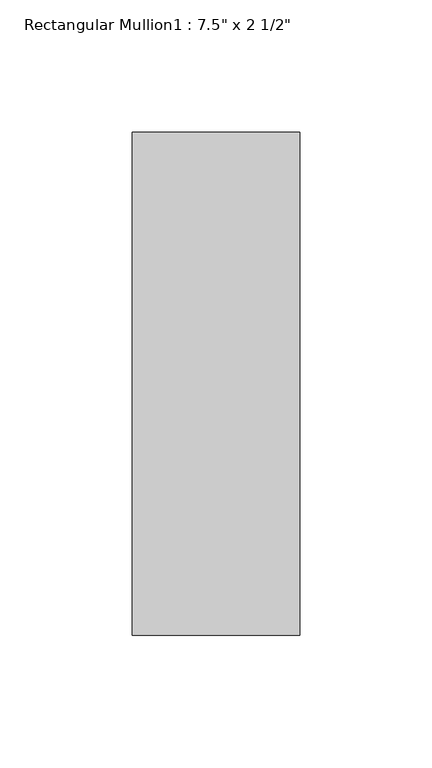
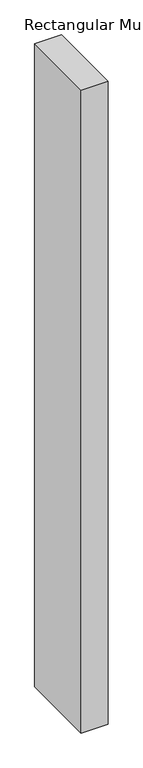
"""IFC4 building model written with IfcOpenShell, lengths in millimetres: member geometry."""

import ifcopenshell
import ifcopenshell.guid

model = None  # the IFC model being written
_history = None  # IfcOwnerHistory: only IFC2X3 demands one
_inside = {}  # id of a spatial element -> (the spatial element, [elements in it])
_under = {}  # id of a project, library or spatial element -> (it, [spatial elements below it])
_declared = {}  # id of a project -> (the project, [libraries it declares])
_typed = {}  # id of a type object -> (the type object, [elements of that type])
_made_of = {}  # id of a material, layer set ... -> (it, [elements and type objects made of it])


def new_model(schema):
    """Start an empty IFC model of exactly this schema.

    Asked for "IFC4X3", IfcOpenShell would pick the latest addendum, in which some entities
    have other attributes; the version numbers below select the first issue.
    IFC2X3 requires an IfcOwnerHistory on every rooted entity: one is made here for all.
    """
    global model, _history
    if schema == "IFC4X3":
        model = ifcopenshell.file(schema_version=(4, 3, 0, 0))
    else:
        model = ifcopenshell.file(schema=schema)
    _inside.clear()
    _under.clear()
    _declared.clear()
    _typed.clear()
    _made_of.clear()
    _history = None
    if model.schema == "IFC2X3":
        org = make("IfcOrganization", Name="unknown")
        user = make(
            "IfcPersonAndOrganization",
            ThePerson=make("IfcPerson", FamilyName="unknown"),
            TheOrganization=org,
        )
        app = make(
            "IfcApplication",
            ApplicationDeveloper=org,
            Version="unknown",
            ApplicationFullName="unknown",
            ApplicationIdentifier="unknown",
        )
        _history = make(
            "IfcOwnerHistory",
            OwningUser=user,
            OwningApplication=app,
            ChangeAction="ADDED",
            CreationDate=0,
        )
    return model


def make(cls, **values):
    """One entity of the class cls with the attributes given. An attribute that is None is left unset."""
    return model.create_entity(
        cls, **{name: value for name, value in values.items() if value is not None}
    )


def rooted(cls, **values):
    """An entity with a GlobalId (a new one), such as an element, a storey or a relation."""
    return make(cls, GlobalId=ifcopenshell.guid.new(), OwnerHistory=_history, **values)


def si_unit(unit_type, name, prefix=None):
    """IfcSIUnit, for example si_unit("LENGTHUNIT", "METRE", prefix="MILLI")."""
    return make("IfcSIUnit", UnitType=unit_type, Prefix=prefix, Name=name)


def assignment(units):
    """IfcUnitAssignment: the units of a project."""
    return None if units is None else make("IfcUnitAssignment", Units=units)


def point(xyz):
    """IfcCartesianPoint."""
    return None if xyz is None else make("IfcCartesianPoint", Coordinates=xyz)


def direction(xyz):
    """IfcDirection."""
    return None if xyz is None else make("IfcDirection", DirectionRatios=xyz)


def frame(location, z_axis=None, x_axis=None):
    """IfcAxis2Placement3D, a coordinate frame: its origin and axes. An axis left out is left unset."""
    return make(
        "IfcAxis2Placement3D",
        Location=point(location),
        Axis=direction(z_axis),
        RefDirection=direction(x_axis),
    )


def origin():
    """The frame at (0, 0, 0) with its axes left unset."""
    return frame((0.0, 0.0, 0.0))


def place(relative_to, where):
    """IfcLocalPlacement: puts the frame where relative to a parent placement (None: the world)."""
    return make(
        "IfcLocalPlacement", PlacementRelTo=relative_to, RelativePlacement=where
    )


def context(
    kind, dimensions, precision=None, world=None, true_north=None, identifier=None
):
    """IfcGeometricRepresentationContext, for example the 3D "Model" context."""
    return make(
        "IfcGeometricRepresentationContext",
        ContextIdentifier=identifier,
        ContextType=kind,
        CoordinateSpaceDimension=dimensions,
        Precision=precision,
        WorldCoordinateSystem=world,
        TrueNorth=true_north,
    )


def project(units=None, contexts=None):
    """IfcProject with its units and contexts."""
    return rooted(
        "IfcProject",
        Name="project",
        RepresentationContexts=contexts,
        UnitsInContext=assignment(units),
    )


def spatial(cls, under=None, at=None, **own):
    """A site, building, storey or space (cls), placed at a placement, below another one or the project."""
    s = rooted(cls, ObjectPlacement=at, **own)
    if under is not None:
        _under.setdefault(under.id(), (under, []))[1].append(s)
    return s


def polyline(points):
    """IfcPolyline through the points."""
    return make("IfcPolyline", Points=[point(p) for p in points])


def outline(outer, holes=None, kind="AREA"):
    """IfcArbitraryClosedProfileDef: a profile drawn as a closed curve; with holes, ...WithVoids."""
    if holes is None:
        return make("IfcArbitraryClosedProfileDef", ProfileType=kind, OuterCurve=outer)
    return make(
        "IfcArbitraryProfileDefWithVoids",
        ProfileType=kind,
        OuterCurve=outer,
        InnerCurves=holes,
    )


def extrude(swept, where, along, depth):
    """IfcExtrudedAreaSolid: the profile swept, set in the frame where, extruded along a direction by depth."""
    return make(
        "IfcExtrudedAreaSolid",
        SweptArea=swept,
        Position=where,
        ExtrudedDirection=direction(along),
        Depth=depth,
    )


def shape(context_of_items, identifier, shape_type, items):
    """IfcShapeRepresentation: the items that make up one representation, for example the "Body"."""
    return make(
        "IfcShapeRepresentation",
        ContextOfItems=context_of_items,
        RepresentationIdentifier=identifier,
        RepresentationType=shape_type,
        Items=items,
    )


def source(mapping_origin, context_of_items, identifier, shape_type, items):
    """IfcRepresentationMap: a shape defined once, which mapped items show again and again."""
    return make(
        "IfcRepresentationMap",
        MappingOrigin=mapping_origin,
        MappedRepresentation=shape(context_of_items, identifier, shape_type, items),
    )


def transform(
    local_origin,
    x_axis=None,
    y_axis=None,
    z_axis=None,
    scale=None,
    scale2=None,
    scale3=None,
    uniform=True,
):
    """IfcCartesianTransformationOperator3D, or its non-uniform kind. x_axis, y_axis, z_axis: its Axis1, 2, 3."""
    if uniform:
        return make(
            "IfcCartesianTransformationOperator3D",
            Axis1=direction(x_axis),
            Axis2=direction(y_axis),
            LocalOrigin=point(local_origin),
            Scale=scale,
            Axis3=direction(z_axis),
        )
    return make(
        "IfcCartesianTransformationOperator3DnonUniform",
        Axis1=direction(x_axis),
        Axis2=direction(y_axis),
        LocalOrigin=point(local_origin),
        Scale=scale,
        Axis3=direction(z_axis),
        Scale2=scale2,
        Scale3=scale3,
    )


def mapped(mapping_source, mapping_target):
    """IfcMappedItem: shows the shape of a source again, moved by a transform."""
    return make(
        "IfcMappedItem", MappingSource=mapping_source, MappingTarget=mapping_target
    )


def made_of(thing, what):
    """Note that an element or type object is made of a material, layer set ...; save() writes the relation."""
    if what is not None:
        _made_of.setdefault(what.id(), (what, []))[1].append(thing)
    return thing


def element(
    cls,
    number,
    at=None,
    inside=None,
    cuts=None,
    type_object=None,
    material=None,
    context=None,
    identifier="Body",
    shape_type=None,
    held_by="IfcProductDefinitionShape",
    body=None,
    shapes=None,
    **own,
):
    """One element of the class cls, such as IfcWall. Its Tag is "e" and its number.

    at: its placement. inside: the storey or other place that contains it. cuts: it is an
    opening in that element (IfcRelVoidsElement). A single representation is given by context,
    identifier, shape_type and body (its items); several are given by shapes. held_by: the class
    of the entity that holds the representations. save() writes the other relations.
    """
    e = rooted(cls, Tag="e%d" % number, ObjectPlacement=at, **own)
    if body is not None:
        shapes = [shape(context, identifier, shape_type, body)]
    if shapes is not None:
        e.Representation = make(held_by, Representations=shapes)
    if inside is not None:
        _inside.setdefault(inside.id(), (inside, []))[1].append(e)
    if cuts is not None:
        rooted(
            "IfcRelVoidsElement", RelatingBuildingElement=cuts, RelatedOpeningElement=e
        )
    if type_object is not None:
        _typed.setdefault(type_object.id(), (type_object, []))[1].append(e)
    return made_of(e, material)


def aggregate(whole, parts):
    """IfcRelAggregates: a whole, such as a stair, and the parts it consists of."""
    return rooted("IfcRelAggregates", RelatingObject=whole, RelatedObjects=parts)


def save(model, path):
    """Write the relations noted so far, then the file.

    IfcRelAggregates (storeys below a building ...), IfcRelContainedInSpatialStructure (elements
    in a storey), IfcRelDefinesByType, IfcRelAssociatesMaterial and IfcRelDeclares: one each for
    every whole, place, type object, material and project.
    """
    for whole, parts in _under.values():
        aggregate(whole, parts)
    for where, things in _inside.values():
        rooted(
            "IfcRelContainedInSpatialStructure",
            RelatedElements=things,
            RelatingStructure=where,
        )
    for kind, things in _typed.values():
        rooted("IfcRelDefinesByType", RelatedObjects=things, RelatingType=kind)
    for what, things in _made_of.values():
        rooted("IfcRelAssociatesMaterial", RelatedObjects=things, RelatingMaterial=what)
    for by, libraries in _declared.values():
        rooted("IfcRelDeclares", RelatingContext=by, RelatedDefinitions=libraries)
    model.write(path)


def member_c017a641(model_context):
    return source(origin(), model_context, "Body", "SweptSolid", [
        extrude(outline(polyline([(-63.5, -165.1), (-63.5, 25.4), (0.0, 25.4), (0.0, -165.1), (-63.5, -165.1)])), frame((0.0, 0.0, -1606.5500061), z_axis=(0.0, 0.0, 1.0), x_axis=(1.0, 0.0, 0.0)), (0.0, 0.0, 1.0), 1606.5500061),
    ])


if __name__ == "__main__":
    model = new_model("IFC4")
    model_context = context("Model", 3, world=origin())
    ifc_project = project(units=[si_unit("LENGTHUNIT", "METRE", prefix="MILLI")], contexts=[model_context])
    site = spatial("IfcSite", under=ifc_project)
    building = spatial("IfcBuilding", under=site)
    placement = place(None, origin())
    member_shape = member_c017a641(model_context)
    element("IfcMember", 1, ObjectType="Rectangular Mullion1 : 7.5\" x 2 1/2\"", at=placement, inside=building, context=model_context, shape_type="MappedRepresentation", body=[
        mapped(member_shape, transform((0.0, 0.0, 0.0), x_axis=(1.0, 0.0, 0.0), y_axis=(0.0, 1.0, 0.0), z_axis=(0.0, 0.0, 1.0))),
    ])
    save(model, "model.ifc")
